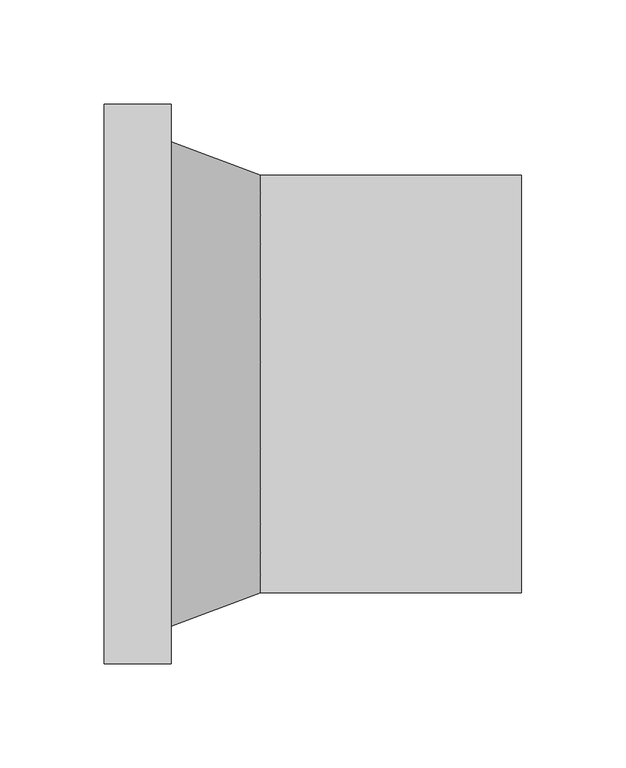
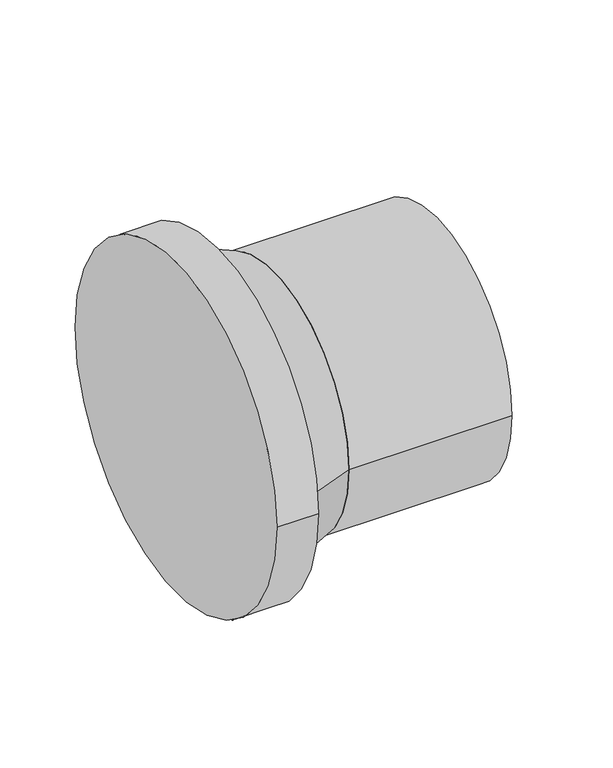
"""IFC4 building model written with IfcOpenShell, lengths in millimetres: pipe fitting geometry, NIRON RED termofusion casquillo SDR 11 : Estándar."""

from ifc_helpers import new_model, si_unit, point, frame, origin, origin_2d, place, context, project, spatial, polyline, circle_curve, trimmed, segment, composite_curve, outline, extrude, source, transform, mapped, element, save
from ifc_brep_helpers import plane_surface, revolved_surface, advanced_brep


def pipe_fitting_e5b680cb(model_context):
    return source(origin(), model_context, "Body", "SolidModel", [
        extrude(outline(composite_curve([segment(trimmed(circle_curve(origin_2d(), 100.0), [point((-100.0, 0.0))], [point((100.0, 0.0))], False, "CARTESIAN"), True, "CONTINUOUS"), segment(trimmed(circle_curve(origin_2d(), 100.0), [point((100.0, 0.0))], [point((-100.0, 0.0))], False, "CARTESIAN"), True, "CONTINUOUS")], self_intersect=False)), frame((75.0, 0.0, 0.0), z_axis=(1.0, 0.0, 0.0), x_axis=(0.0, 1.0, 0.0)), (0.0, 0.0, 1.0), 125.0),
        advanced_brep(
        [(75.0, -100.0, 0.0), (75.0, 100.0, 0.0), (32.0, -116.0, 0.0), (32.0, 116.0, 0.0)],
        [
            (0, 1, circle_curve(frame((75.0, 0.0, 0.0), z_axis=(1.0, 0.0, 0.0), x_axis=(0.0, -1.0, 0.0)), 100.0)),
            (1, 0, circle_curve(frame((75.0, 0.0, 0.0), z_axis=(1.0, 0.0, 0.0), x_axis=(0.0, 1.0, 0.0)), 100.0)),
            (2, 3, circle_curve(frame((32.0, 0.0, 0.0), z_axis=(-1.0, 0.0, 0.0), x_axis=(0.0, 1.0, 0.0)), 116.0)),
            (3, 2, circle_curve(frame((32.0, 0.0, 0.0), z_axis=(-1.0, 0.0, 0.0), x_axis=(0.0, -1.0, 0.0)), 116.0)),
            (3, 1),
            (0, 2),
        ],
        [
            plane_surface(frame((75.0, 0.0, 0.0), z_axis=(1.0, 0.0, 0.0), x_axis=(0.0, 0.0, -1.0))),
            plane_surface(frame((32.0, 0.0, 0.0), z_axis=(-1.0, 0.0, 0.0), x_axis=(0.0, 0.0, -1.0))),
            revolved_surface(polyline([(75.0, -100.0, 0.0), (32.0, -116.0, 0.0)]), (343.75, 0.0, 0.0), (-1.0, 0.0, 0.0)),
            revolved_surface(polyline([(75.0, 100.0, 0.0), (32.0, 116.0, 0.0)]), (343.75, 0.0, 0.0), (-1.0, 0.0, 0.0)),
        ],
        [
            (0, [[1, 2]]),
            (1, [[3, 4]]),
            (2, [[-4, 5, -1, 6]]),
            (3, [[-3, -6, -2, -5]]),
        ],
    ),
        extrude(outline(composite_curve([segment(trimmed(circle_curve(origin_2d(), 134.0), [point((-134.0, 0.0))], [point((134.0, 0.0))], False, "CARTESIAN"), True, "CONTINUOUS"), segment(trimmed(circle_curve(origin_2d(), 134.0), [point((134.0, 0.0))], [point((-134.0, 0.0))], False, "CARTESIAN"), True, "CONTINUOUS")], self_intersect=False)), frame((0.0, 0.0, 0.0), z_axis=(1.0, 0.0, 0.0), x_axis=(0.0, 1.0, 0.0)), (0.0, 0.0, 1.0), 32.0),
    ])


if __name__ == "__main__":
    model = new_model("IFC4")
    model_context = context("Model", 3, world=origin())
    ifc_project = project(units=[si_unit("LENGTHUNIT", "METRE", prefix="MILLI")], contexts=[model_context])
    site = spatial("IfcSite", under=ifc_project)
    building = spatial("IfcBuilding", under=site)
    placement = place(None, origin())
    pipe_fitting_shape = pipe_fitting_e5b680cb(model_context)
    element("IfcPipeFitting", 1, ObjectType="NIRON RED termofusion casquillo SDR 11 : Estándar", at=placement, inside=building, context=model_context, shape_type="MappedRepresentation", body=[
        mapped(pipe_fitting_shape, transform((0.0, 0.0, 0.0), x_axis=(1.0, 0.0, 0.0), y_axis=(0.0, 1.0, 0.0), z_axis=(0.0, 0.0, 1.0))),
    ])
    save(model, "model.ifc")
